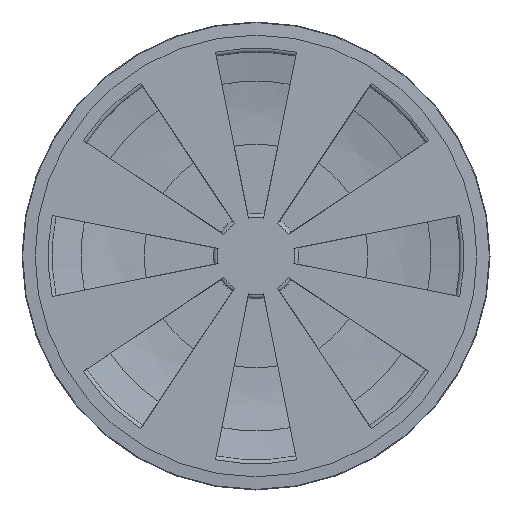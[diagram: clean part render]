
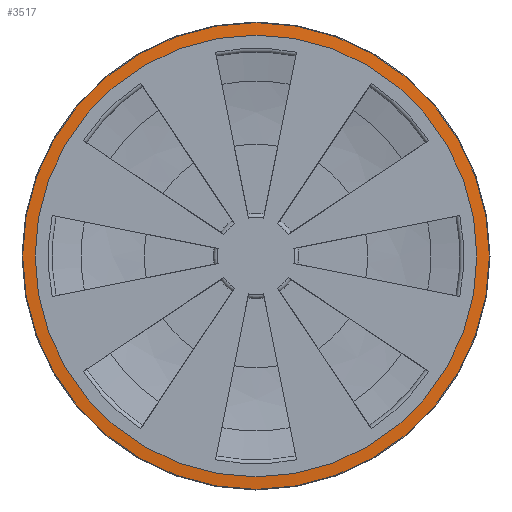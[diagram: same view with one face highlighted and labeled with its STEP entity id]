
A CAD part, front view. The second image highlights one B-rep face of the part: STEP entity #3517.
In plain terms, the highlighted conical face has half-angle 86 degrees and reference radius 353.465 mm.
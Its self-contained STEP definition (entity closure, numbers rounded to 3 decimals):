
#175=LINE('',#6196,#317);
#317=VECTOR('',#4946,353.465);
#438=CONICAL_SURFACE('',#3986,353.465,1.501);
#543=FACE_OUTER_BOUND('',#753,.T.);
#753=EDGE_LOOP('',(#2720,#2721,#2722,#2723,#2724,#2725));
#1087=CIRCLE('',#3984,342.36);
#1088=CIRCLE('',#3985,342.36);
#1089=CIRCLE('',#3987,364.57);
#1090=CIRCLE('',#3988,364.57);
#1463=VERTEX_POINT('',#6186);
#1464=VERTEX_POINT('',#6188);
#1465=VERTEX_POINT('',#6192);
#1466=VERTEX_POINT('',#6193);
#1917=EDGE_CURVE('',#1464,#1463,#1087,.T.);
#1918=EDGE_CURVE('',#1463,#1464,#1088,.T.);
#1919=EDGE_CURVE('',#1465,#1466,#1089,.T.);
#1920=EDGE_CURVE('',#1466,#1465,#1090,.T.);
#1921=EDGE_CURVE('',#1466,#1464,#175,.T.);
#2720=ORIENTED_EDGE('',*,*,#1919,.F.);
#2721=ORIENTED_EDGE('',*,*,#1920,.F.);
#2722=ORIENTED_EDGE('',*,*,#1921,.T.);
#2723=ORIENTED_EDGE('',*,*,#1917,.T.);
#2724=ORIENTED_EDGE('',*,*,#1918,.T.);
#2725=ORIENTED_EDGE('',*,*,#1921,.F.);
#3517=ADVANCED_FACE('',(#543),#438,.T.);
#3984=AXIS2_PLACEMENT_3D('',#6189,#4936,#4937);
#3985=AXIS2_PLACEMENT_3D('',#6190,#4938,#4939);
#3986=AXIS2_PLACEMENT_3D('',#6191,#4940,#4941);
#3987=AXIS2_PLACEMENT_3D('',#6194,#4942,#4943);
#3988=AXIS2_PLACEMENT_3D('',#6195,#4944,#4945);
#4936=DIRECTION('center_axis',(0.,1.,0.));
#4937=DIRECTION('ref_axis',(1.,0.,0.));
#4938=DIRECTION('center_axis',(0.,1.,0.));
#4939=DIRECTION('ref_axis',(1.,0.,0.));
#4940=DIRECTION('center_axis',(0.,1.,0.));
#4941=DIRECTION('ref_axis',(-1.,0.,0.));
#4942=DIRECTION('center_axis',(0.,1.,0.));
#4943=DIRECTION('ref_axis',(1.,0.,0.));
#4944=DIRECTION('center_axis',(0.,1.,0.));
#4945=DIRECTION('ref_axis',(1.,0.,0.));
#4946=DIRECTION('',(-0.998,-0.07,0.));
#6186=CARTESIAN_POINT('',(0.,22.382,-342.36));
#6188=CARTESIAN_POINT('',(342.36,22.382,0.));
#6189=CARTESIAN_POINT('Origin',(0.,22.382,0.));
#6190=CARTESIAN_POINT('Origin',(0.,22.382,0.));
#6191=CARTESIAN_POINT('Origin',(0.,23.158,0.));
#6192=CARTESIAN_POINT('',(0.,23.935,-364.57));
#6193=CARTESIAN_POINT('',(364.57,23.935,0.));
#6194=CARTESIAN_POINT('Origin',(0.,23.935,0.));
#6195=CARTESIAN_POINT('Origin',(0.,23.935,0.));
#6196=CARTESIAN_POINT('',(353.465,23.158,0.));
